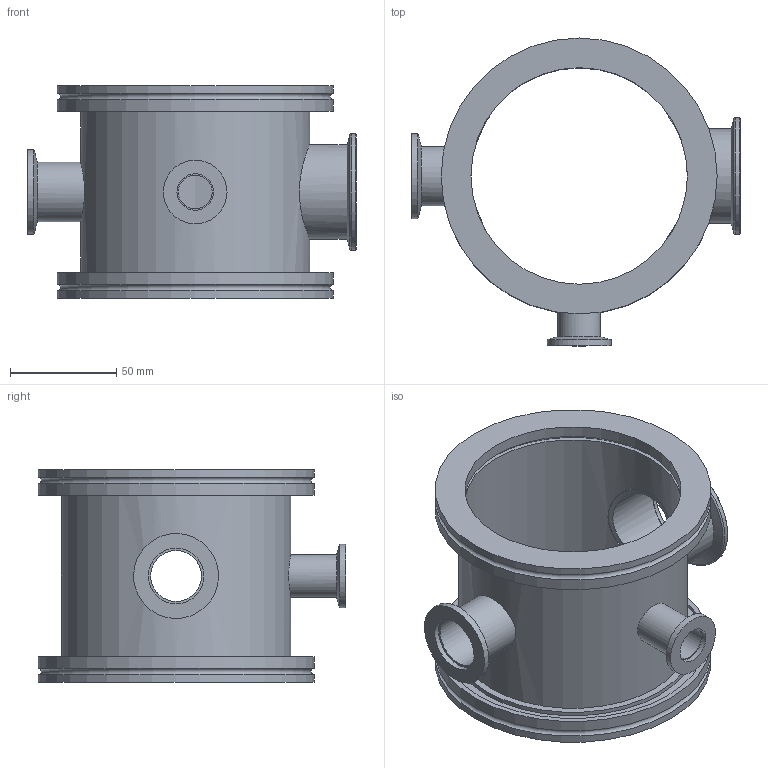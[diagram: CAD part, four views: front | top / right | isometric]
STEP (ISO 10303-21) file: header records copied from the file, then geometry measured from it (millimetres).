
FILE_DESCRIPTION( ( 'Unknown' ), '1' );
FILE_NAME( 'X:/Daten ( aktueller Bestand )/Projekte und Zeichnungen/Solid Edge/STP-Dateien/ISO-K Teile und Zubehör/6392.stp', 'Unknown', ( 'Unknown' ), ( 'Unknown' ), 'PSStep 14.0', 'Unknown', ' ' );
FILE_SCHEMA( ( 'AUTOMOTIVE_DESIGN { 1 0 10303 214 1 1 1 1 }' ) );
Length unit declared in the file: millimetre
Products named in the file (7): Assem1; 6512-oa0; 6512-oa1; 1522-3-oa2; 1524-3-oa3; 1526-3-oa4; Rohr 108x3 Messkreuz-oa5
Assembly tree (6 placements, depth 2):
  Assem1
    6512-oa0
    6512-oa1
    1522-3-oa2
    1524-3-oa3
    1526-3-oa4
    Rohr 108x3 Messkreuz-oa5
Bounding box: 155 x 145 x 100 mm (x, y, z)
Volume: 199287.4 mm3; surface area: 115538.6 mm2
Topology: 6 solids, 6 shells, 62 faces, 114 edges, 71 vertices
Faces by surface type: cylinder 32, plane 20, cone 7, torus 3
Full cylindrical faces by diameter (mm): 16 x1, 17.2 x1, 20 x2, 24 x1, 26.2 x1, 28 x2, 30 x1, 40 x1, 40.5 x1, 41.2 x1, 44.5 x1, 45 x1, 55 x1, 102 x3, 108 x1, 108.5 x2, 115 x2, 125 x2, 130 x4
Entity records: 3092 total; most frequent: CARTESIAN_POINT 1390, DIRECTION 246, ORIENTED_EDGE 136, EDGE_LOOP 128, AXIS2_PLACEMENT_3D 122, FACE_OUTER_BOUND 94, EDGE_CURVE 68, VERTEX_POINT 66
